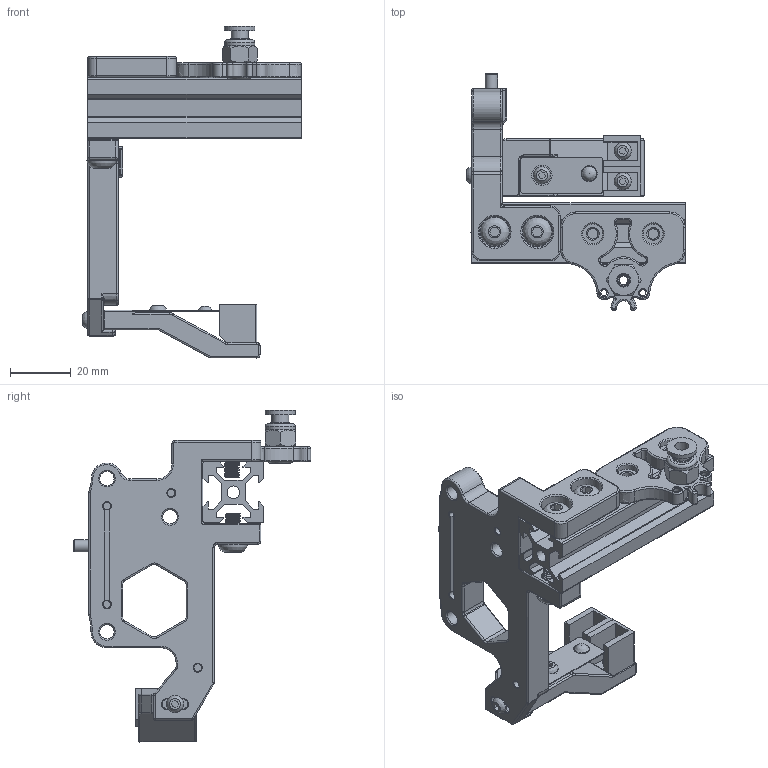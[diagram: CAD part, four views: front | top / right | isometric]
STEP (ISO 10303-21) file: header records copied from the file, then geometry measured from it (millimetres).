
FILE_DESCRIPTION(/* description */ (''),/* implementation_level */ '2;1');
FILE_NAME(/* name */ 'Dock v23.step',/* time_stamp */ '2024-09-13T22:17:59+07:00',/* author */ (''),/* organization */ (''),/* preprocessor_version */ 'ST-DEVELOPER v20',/* originating_system */ 'Autodesk Translation Framework v13.14.0.145',/* authorisation */ '');
FILE_SCHEMA (('AUTOMOTIVE_DESIGN { 1 0 10303 214 3 1 1 }'));
Products named in the file (30): Dock; Hardware (1); 8 x 5mm magnet; m4 x 15mm dowel pin; 8 x 5mm magnet (1); 8 x 5mm magnet (2); m5 x 10mm bhcs; m5 x 8mm bhcs; m3 x 6mm bhcs; m3 hex nut (3); m3 hex nut; m3 washer; m3 x 10mm bhcs; m3 brass insert; AA battery terminal; m5 x 8mm bhcs (1); m3 x 6mm bhcs (1); 8 x 5mm magnet (3); spring OD6 ID5 11mm; m3 hex nut (1); m3 x 6mm bhcs (2); Nozzle Blocker Mount; Dock Body (2); PC4-M10 pneumatic coupling v1; 2020 Extrusion; Umbilical Extrusion Mount; Silicone Brush; Spring Cover; Pin Stopper; Silicone Brush (1)
Assembly tree (29 placements, depth 3):
  Dock
    Hardware (1)
      8 x 5mm magnet
      m4 x 15mm dowel pin
      8 x 5mm magnet (1)
      8 x 5mm magnet (2)
      m5 x 10mm bhcs
      m5 x 8mm bhcs
      m3 x 6mm bhcs
      m3 hex nut (3)
      m3 hex nut
      m3 washer
      m3 x 10mm bhcs
      m3 brass insert
      AA battery terminal
      m5 x 8mm bhcs (1)
      m3 x 6mm bhcs (1)
      8 x 5mm magnet (3)
      spring OD6 ID5 11mm
      m3 hex nut (1)
      m3 x 6mm bhcs (2)
    Nozzle Blocker Mount
    Dock Body (2)
    PC4-M10 pneumatic coupling v1
    2020 Extrusion
    Umbilical Extrusion Mount
    Silicone Brush
    Spring Cover
    Pin Stopper
    Silicone Brush (1)
Bounding box: 71.65 x 77.83 x 108.89 mm (x, y, z)
Volume: 48423.7 mm3; surface area: 37803.1 mm2
Topology: 30 solids, 30 shells, 1572 faces, 3987 edges, 2499 vertices
Faces by surface type: cylinder 644, plane 369, bspline 217, cone 164, torus 160, sphere 18
Full cylindrical faces by diameter (mm): 2 x2, 2.356 x56, 2.376 x10, 2.5 x19, 2.927 x52, 3 x4, 3.4 x6, 3.505 x1, 3.564 x1, 3.99 x10, 4 x1, 4.1 x1, 4.2 x1, 4.3 x1, 4.5 x3, 4.7 x4, 4.751 x1, 4.9 x1, 4.901 x19, 5.5 x6, 5.7 x4, 6.3 x2, 6.5 x2, 6.7 x1, 8 x4, 8.2 x3, 8.917 x4, 9.036 x3, 9.947 x1, 10 x6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
Entity records: 93177 total; most frequent: CARTESIAN_POINT 56107, ORIENTED_EDGE 7954, DIRECTION 7228, EDGE_CURVE 3977, AXIS2_PLACEMENT_3D 2878, VERTEX_POINT 2499, EDGE_LOOP 1678, FACE_OUTER_BOUND 1572
